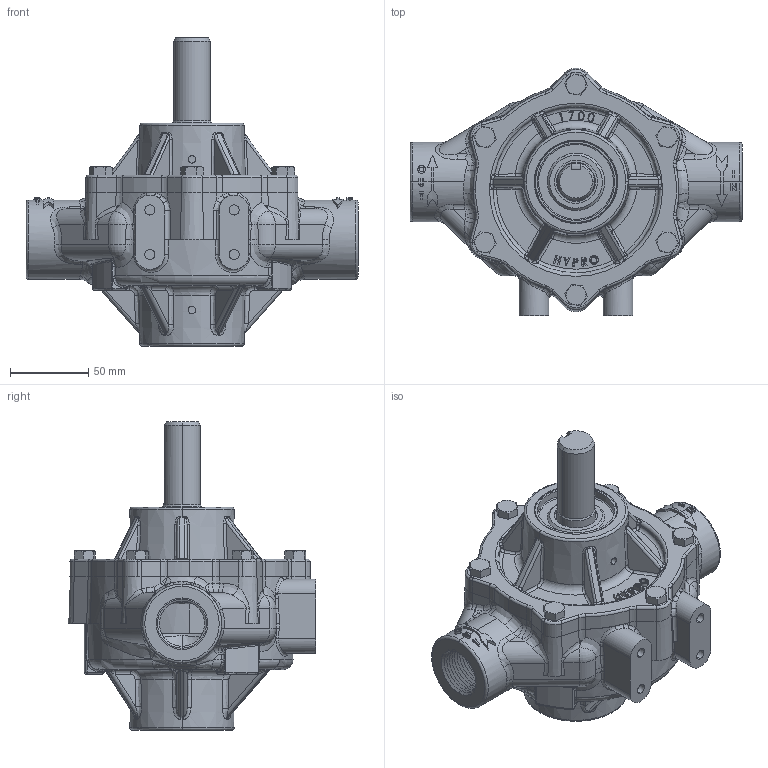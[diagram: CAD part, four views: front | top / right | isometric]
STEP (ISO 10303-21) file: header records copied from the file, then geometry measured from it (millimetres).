
FILE_DESCRIPTION (( 'STEP AP203' ), '1' );
FILE_NAME ('1700C-R.STEP', '2013-09-25T13:57:38', ( '' ), ( '' ), 'SwSTEP 2.0', 'SolidWorks 2012', '' );
FILE_SCHEMA (( 'CONFIG_CONTROL_DESIGN' ));
Length unit declared in the file: inch
Products named in the file (1): 1700C-R
Bounding box: 212.72 x 158.65 x 197.64 mm (x, y, z)
Volume: 1449201.5 mm3; surface area: 142655.2 mm2
Topology: 1 solids, 21 shells, 2817 faces, 7122 edges, 4503 vertices
Faces by surface type: plane 1187, bspline 979, cylinder 316, cone 183, torus 144, sphere 8
Entity records: 132718 total; most frequent: CARTESIAN_POINT 72335, ORIENTED_EDGE 14196, DIRECTION 9686, EDGE_CURVE 7098, VERTEX_POINT 4501, LINE 3586, VECTOR 3586, AXIS2_PLACEMENT_3D 3050
